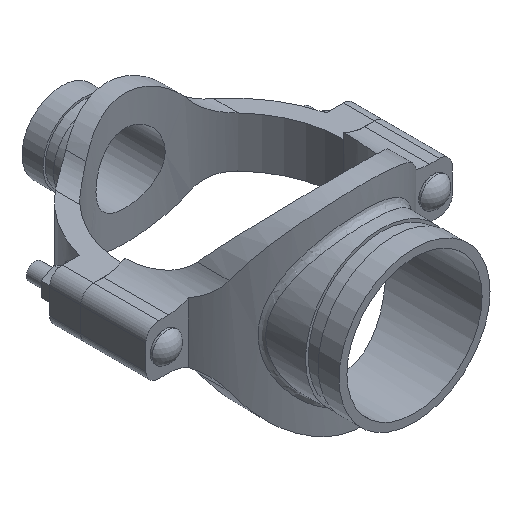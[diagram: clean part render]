
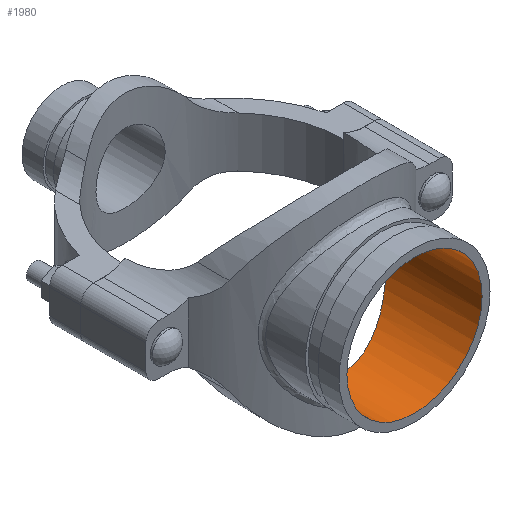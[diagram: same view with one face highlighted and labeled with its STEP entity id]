
A CAD part, isometric view. The second image highlights one B-rep face of the part: STEP entity #1980.
In plain terms, the highlighted cylindrical face has radius 51.197 mm (diameter 102.394 mm), a full revolution.
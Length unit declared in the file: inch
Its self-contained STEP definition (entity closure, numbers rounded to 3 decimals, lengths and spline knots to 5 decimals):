
#50=B_SPLINE_CURVE_WITH_KNOTS('',3,(#4008,#4009,#4010,#4011,#4012,#4013,
#4014,#4015,#4016,#4017,#4018,#4019,#4020,#4021,#4022,#4023,#4024,#4025,
#4026,#4027,#4028,#4029,#4030,#4031,#4032,#4033,#4034,#4035,#4036,#4037,
#4038,#4039,#4040,#4041,#4042,#4043,#4044,#4045,#4046,#4047,#4048,#4049,
#4050,#4051,#4052,#4053,#4054,#4055,#4056,#4057,#4058,#4059,#4060,#4061,
#4062,#4063,#4064,#4065,#4066,#4067,#4068,#4069,#4070,#4071,#4072,#4073),
 .UNSPECIFIED.,.T.,.F.,(4,2,2,2,2,2,2,2,2,2,2,2,2,2,2,2,2,2,2,2,2,2,2,2,
2,2,2,2,2,2,2,2,4),(0.,1.00125,2.0025,3.00375,
4.005,4.99863,5.99227,6.98591,7.97954,
8.97318,9.96682,10.96046,11.95409,12.95534,
13.95659,14.95784,15.95909,16.96034,17.96159,
18.96284,19.96408,20.95772,21.95136,22.945,
23.93863,24.93227,25.92591,26.91954,27.91318,
28.91443,29.91568,30.91693,31.91818),
 .UNSPECIFIED.);
#95=CYLINDRICAL_SURFACE('',#2213,2.01563);
#212=FACE_OUTER_BOUND('',#334,.T.);
#334=EDGE_LOOP('',(#1588,#1589,#1590,#1591));
#484=LINE('',#4007,#632);
#632=VECTOR('',#2674,2.01563);
#730=CIRCLE('',#2214,2.01563);
#895=VERTEX_POINT('',#4004);
#896=VERTEX_POINT('',#4006);
#1140=EDGE_CURVE('',#895,#895,#730,.T.);
#1141=EDGE_CURVE('',#895,#896,#484,.T.);
#1142=EDGE_CURVE('',#896,#896,#50,.T.);
#1588=ORIENTED_EDGE('',*,*,#1140,.F.);
#1589=ORIENTED_EDGE('',*,*,#1141,.T.);
#1590=ORIENTED_EDGE('',*,*,#1142,.F.);
#1591=ORIENTED_EDGE('',*,*,#1141,.F.);
#1980=ADVANCED_FACE('',(#212),#95,.F.);
#2213=AXIS2_PLACEMENT_3D('',#4003,#2670,#2671);
#2214=AXIS2_PLACEMENT_3D('',#4005,#2672,#2673);
#2670=DIRECTION('center_axis',(0.,-1.,0.));
#2671=DIRECTION('ref_axis',(-1.,0.,0.));
#2672=DIRECTION('center_axis',(0.,-1.,0.));
#2673=DIRECTION('ref_axis',(-1.,0.,0.));
#2674=DIRECTION('',(0.,-1.,0.));
#4003=CARTESIAN_POINT('Origin',(0.,5.38,0.));
#4004=CARTESIAN_POINT('',(2.01563,5.38,0.));
#4005=CARTESIAN_POINT('Origin',(0.,5.38,0.));
#4006=CARTESIAN_POINT('',(2.01563,2.54946,0.));
#4007=CARTESIAN_POINT('',(2.01563,5.38,0.));
#4008=CARTESIAN_POINT('Ctrl Pts',(2.01563,2.54946,0.));
#4009=CARTESIAN_POINT('Ctrl Pts',(2.01563,2.54946,-0.1314));
#4010=CARTESIAN_POINT('Ctrl Pts',(2.00259,2.55993,-0.2654));
#4011=CARTESIAN_POINT('Ctrl Pts',(1.94964,2.60049,-0.52889));
#4012=CARTESIAN_POINT('Ctrl Pts',(1.90975,2.63047,-0.6584));
#4013=CARTESIAN_POINT('Ctrl Pts',(1.80606,2.70271,-0.90485));
#4014=CARTESIAN_POINT('Ctrl Pts',(1.74218,2.74492,-1.02206));
#4015=CARTESIAN_POINT('Ctrl Pts',(1.59571,2.83257,-1.23835));
#4016=CARTESIAN_POINT('Ctrl Pts',(1.51309,2.87795,-1.33743));
#4017=CARTESIAN_POINT('Ctrl Pts',(1.3381,2.96334,-1.51243));
#4018=CARTESIAN_POINT('Ctrl Pts',(1.23936,3.00663,-1.59493));
#4019=CARTESIAN_POINT('Ctrl Pts',(1.02299,3.08696,-1.74164));
#4020=CARTESIAN_POINT('Ctrl Pts',(0.90535,3.12395,-1.80585));
#4021=CARTESIAN_POINT('Ctrl Pts',(0.65792,3.18526,-1.90995));
#4022=CARTESIAN_POINT('Ctrl Pts',(0.52788,3.20959,-1.94992));
#4023=CARTESIAN_POINT('Ctrl Pts',(0.26412,3.24197,-2.00277));
#4024=CARTESIAN_POINT('Ctrl Pts',(0.1304,3.25,-2.01563));
#4025=CARTESIAN_POINT('Ctrl Pts',(-0.1304,3.25,-2.01563));
#4026=CARTESIAN_POINT('Ctrl Pts',(-0.26412,3.24197,-2.00277));
#4027=CARTESIAN_POINT('Ctrl Pts',(-0.52788,3.20959,-1.94992));
#4028=CARTESIAN_POINT('Ctrl Pts',(-0.65792,3.18526,-1.90995));
#4029=CARTESIAN_POINT('Ctrl Pts',(-0.90535,3.12395,-1.80585));
#4030=CARTESIAN_POINT('Ctrl Pts',(-1.02299,3.08696,-1.74164));
#4031=CARTESIAN_POINT('Ctrl Pts',(-1.23936,3.00663,-1.59493));
#4032=CARTESIAN_POINT('Ctrl Pts',(-1.3381,2.96334,-1.51243));
#4033=CARTESIAN_POINT('Ctrl Pts',(-1.51309,2.87795,-1.33743));
#4034=CARTESIAN_POINT('Ctrl Pts',(-1.59571,2.83257,-1.23835));
#4035=CARTESIAN_POINT('Ctrl Pts',(-1.74218,2.74492,-1.02206));
#4036=CARTESIAN_POINT('Ctrl Pts',(-1.80606,2.70271,-0.90485));
#4037=CARTESIAN_POINT('Ctrl Pts',(-1.90975,2.63047,-0.6584));
#4038=CARTESIAN_POINT('Ctrl Pts',(-1.94964,2.60049,-0.52889));
#4039=CARTESIAN_POINT('Ctrl Pts',(-2.00259,2.55993,-0.2654));
#4040=CARTESIAN_POINT('Ctrl Pts',(-2.01563,2.54946,-0.1314));
#4041=CARTESIAN_POINT('Ctrl Pts',(-2.01563,2.54946,0.1314));
#4042=CARTESIAN_POINT('Ctrl Pts',(-2.00259,2.55993,0.2654));
#4043=CARTESIAN_POINT('Ctrl Pts',(-1.94964,2.60049,0.52889));
#4044=CARTESIAN_POINT('Ctrl Pts',(-1.90975,2.63047,0.6584));
#4045=CARTESIAN_POINT('Ctrl Pts',(-1.80606,2.70271,0.90485));
#4046=CARTESIAN_POINT('Ctrl Pts',(-1.74218,2.74492,1.02206));
#4047=CARTESIAN_POINT('Ctrl Pts',(-1.59571,2.83257,1.23835));
#4048=CARTESIAN_POINT('Ctrl Pts',(-1.51309,2.87795,1.33743));
#4049=CARTESIAN_POINT('Ctrl Pts',(-1.3381,2.96334,1.51243));
#4050=CARTESIAN_POINT('Ctrl Pts',(-1.23936,3.00663,1.59493));
#4051=CARTESIAN_POINT('Ctrl Pts',(-1.02299,3.08696,1.74164));
#4052=CARTESIAN_POINT('Ctrl Pts',(-0.90535,3.12395,1.80585));
#4053=CARTESIAN_POINT('Ctrl Pts',(-0.65792,3.18526,1.90995));
#4054=CARTESIAN_POINT('Ctrl Pts',(-0.52788,3.20959,1.94992));
#4055=CARTESIAN_POINT('Ctrl Pts',(-0.26412,3.24197,2.00277));
#4056=CARTESIAN_POINT('Ctrl Pts',(-0.1304,3.25,2.01563));
#4057=CARTESIAN_POINT('Ctrl Pts',(0.1304,3.25,2.01563));
#4058=CARTESIAN_POINT('Ctrl Pts',(0.26412,3.24197,2.00277));
#4059=CARTESIAN_POINT('Ctrl Pts',(0.52788,3.20959,1.94992));
#4060=CARTESIAN_POINT('Ctrl Pts',(0.65792,3.18526,1.90995));
#4061=CARTESIAN_POINT('Ctrl Pts',(0.90535,3.12395,1.80585));
#4062=CARTESIAN_POINT('Ctrl Pts',(1.02299,3.08696,1.74164));
#4063=CARTESIAN_POINT('Ctrl Pts',(1.23936,3.00663,1.59493));
#4064=CARTESIAN_POINT('Ctrl Pts',(1.3381,2.96334,1.51243));
#4065=CARTESIAN_POINT('Ctrl Pts',(1.51309,2.87795,1.33743));
#4066=CARTESIAN_POINT('Ctrl Pts',(1.59571,2.83257,1.23835));
#4067=CARTESIAN_POINT('Ctrl Pts',(1.74218,2.74492,1.02206));
#4068=CARTESIAN_POINT('Ctrl Pts',(1.80606,2.70271,0.90485));
#4069=CARTESIAN_POINT('Ctrl Pts',(1.90975,2.63047,0.6584));
#4070=CARTESIAN_POINT('Ctrl Pts',(1.94964,2.60049,0.52889));
#4071=CARTESIAN_POINT('Ctrl Pts',(2.00259,2.55993,0.2654));
#4072=CARTESIAN_POINT('Ctrl Pts',(2.01563,2.54946,0.1314));
#4073=CARTESIAN_POINT('Ctrl Pts',(2.01563,2.54946,0.));
